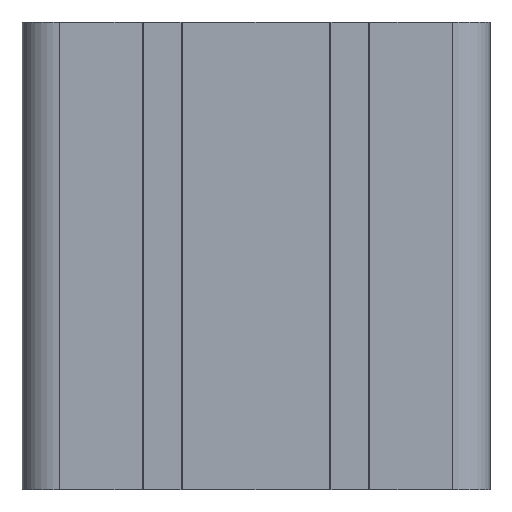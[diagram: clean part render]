
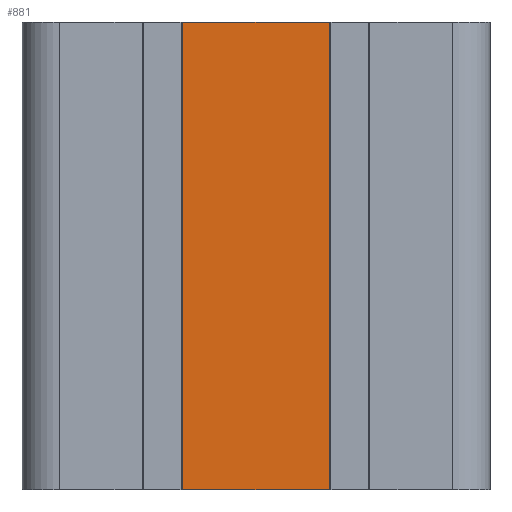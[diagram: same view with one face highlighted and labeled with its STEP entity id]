
A CAD part, front view. The second image highlights one B-rep face of the part: STEP entity #881.
In plain terms, the highlighted planar face has unit normal (0, -1, 0).
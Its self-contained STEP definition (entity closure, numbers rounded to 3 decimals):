
#881=ADVANCED_FACE('',(#2279),#2281,.T.);
#2279=FACE_BOUND('',#2280,.T.);
#2280=EDGE_LOOP('',(#3505,#3506,#3507,#3508));
#2281=PLANE('',#2282);
#2282=AXIS2_PLACEMENT_3D('',#2283,#2284,#2285);
#2283=CARTESIAN_POINT('',(-15.7,-50.,-50.));
#2284=DIRECTION('',(0.,-1.,0.));
#2285=DIRECTION('',(1.,0.,0.));
#3505=ORIENTED_EDGE('',*,*,#3859,.T.);
#3506=ORIENTED_EDGE('',*,*,#4235,.T.);
#3507=ORIENTED_EDGE('',*,*,#4062,.F.);
#3508=ORIENTED_EDGE('',*,*,#4236,.F.);
#3859=EDGE_CURVE('',#4398,#4396,#4399,.T.);
#4062=EDGE_CURVE('',#4802,#4804,#4805,.T.);
#4235=EDGE_CURVE('',#4396,#4804,#5067,.T.);
#4236=EDGE_CURVE('',#4398,#4802,#5068,.T.);
#4396=VERTEX_POINT('',#5321);
#4398=VERTEX_POINT('',#5326);
#4399=LINE('',#5327,#5328);
#4802=VERTEX_POINT('',#6209);
#4804=VERTEX_POINT('',#6214);
#4805=LINE('',#6215,#6216);
#5067=LINE('',#6863,#6864);
#5068=LINE('',#6866,#6867);
#5321=CARTESIAN_POINT('',(15.7,-50.,-50.));
#5326=CARTESIAN_POINT('',(-15.7,-50.,-50.));
#5327=CARTESIAN_POINT('',(-15.7,-50.,-50.));
#5328=VECTOR('',#5329,1.);
#5329=DIRECTION('',(1.,0.,0.));
#6209=CARTESIAN_POINT('',(-15.7,-50.,50.));
#6214=CARTESIAN_POINT('',(15.7,-50.,50.));
#6215=CARTESIAN_POINT('',(-15.7,-50.,50.));
#6216=VECTOR('',#6217,1.);
#6217=DIRECTION('',(1.,0.,0.));
#6863=CARTESIAN_POINT('',(15.7,-50.,-50.));
#6864=VECTOR('',#6865,1.);
#6865=DIRECTION('',(0.,0.,1.));
#6866=CARTESIAN_POINT('',(-15.7,-50.,-50.));
#6867=VECTOR('',#6868,1.);
#6868=DIRECTION('',(0.,0.,1.));
